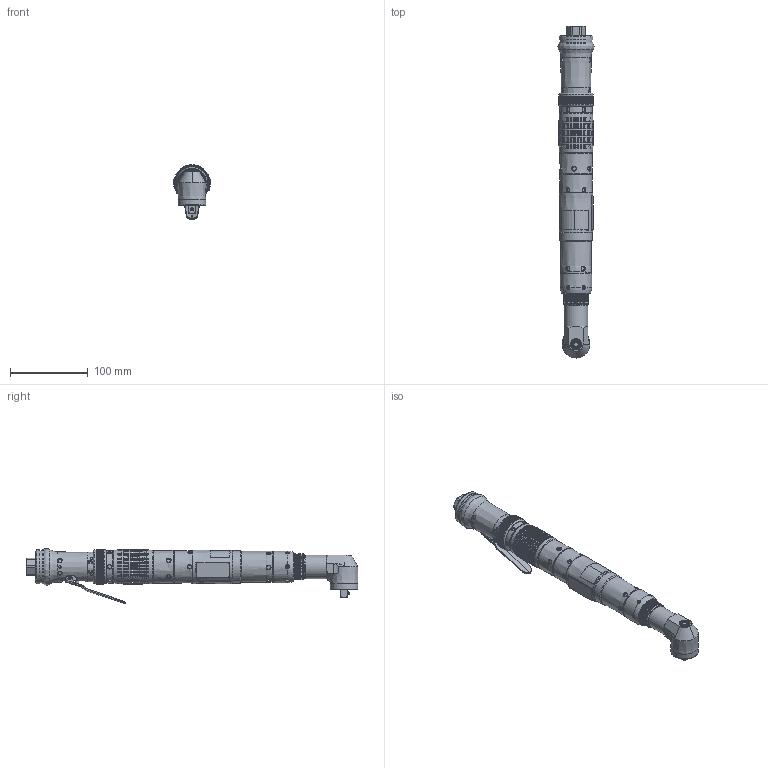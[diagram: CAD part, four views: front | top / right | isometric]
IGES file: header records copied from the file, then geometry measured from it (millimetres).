
Global section: file name: T:\siji\siji2\QA6 angle stall\45498268\45498268.igs; native system: Unigraphics Version X V2.0; preprocessor: Unigraphics NX IGES V2.0; date: 20070515.112124; units: inch
Bounding box: 46.21 x 425.84 x 70.45 mm (x, y, z)
Surface area: 84217.5 mm2 (no closed solid volume)
Topology: 0 solids, 0 shells, 1002 faces, 13469 edges, 13302 vertices
Faces by surface type: revolution 524, extrusion 445, bspline 31, offset 2
